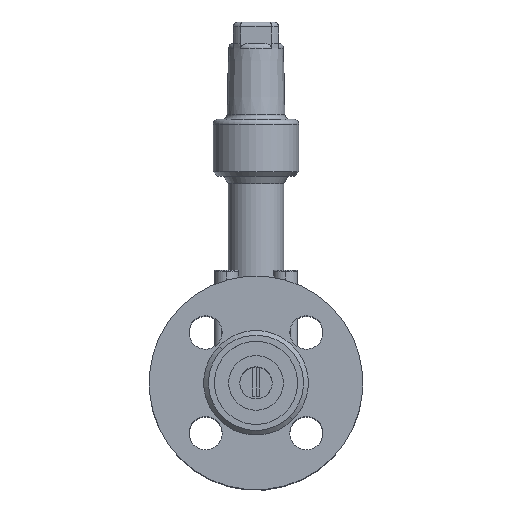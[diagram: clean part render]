
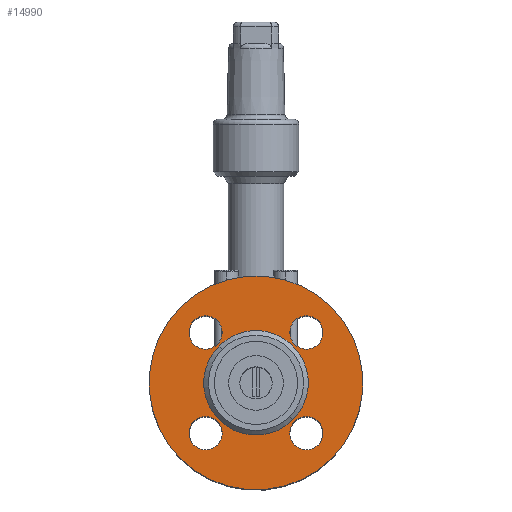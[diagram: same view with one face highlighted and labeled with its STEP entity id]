
A CAD part, top view. The second image highlights one B-rep face of the part: STEP entity #14990.
In plain terms, the highlighted planar face has unit normal (0, 0, 1) as drawn and (0, -1, 0) by its records, which use the part's own axes.
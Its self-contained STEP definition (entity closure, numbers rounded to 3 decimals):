
#3 = EDGE_LOOP ( 'NONE', ( #6827, #7940 ) ) ;
#16414 = EDGE_CURVE ( 'NONE', #14569, #17078, #11067, .T. ) ;
#74 = ORIENTED_EDGE ( 'NONE', *, *, #9362, .T. ) ;
#16471 = EDGE_CURVE ( 'NONE', #16252, #16024, #11132, .T. ) ;
#17078 = VERTEX_POINT ( 'NONE', #12203 ) ;
#1038 = EDGE_CURVE ( 'NONE', #8909, #9132, #17927, .T. ) ;
#1449 = ORIENTED_EDGE ( 'NONE', *, *, #1038, .T. ) ;
#17927 = CIRCLE ( 'NONE', #17928, 7. ) ;
#17928 = AXIS2_PLACEMENT_3D ( 'NONE', #17929, #17930, #17931 ) ;
#17929 = CARTESIAN_POINT ( 'NONE',  ( -30., 2., 0. ) ) ;
#17930 = DIRECTION ( 'NONE',  ( 0., 1., 0. ) ) ;
#17931 = DIRECTION ( 'NONE',  ( -1., 0., 0. ) ) ;
#1553 = CARTESIAN_POINT ( 'NONE',  ( -7., 2., -30. ) ) ;
#1581 = CIRCLE ( 'NONE', #1582, 7. ) ;
#1582 = AXIS2_PLACEMENT_3D ( 'NONE', #1583, #1584, #1585 ) ;
#1583 = CARTESIAN_POINT ( 'NONE',  ( 30., 2., 0. ) ) ;
#1584 = DIRECTION ( 'NONE',  ( 0., 1., 0. ) ) ;
#1585 = DIRECTION ( 'NONE',  ( -1., 0., 0. ) ) ;
#1839 = EDGE_CURVE ( 'NONE', #17078, #14569, #21154, .T. ) ;
#1897 = EDGE_CURVE ( 'NONE', #16269, #3520, #21164, .T. ) ;
#2477 = CARTESIAN_POINT ( 'NONE',  ( 7., 2., -30. ) ) ;
#2596 = CIRCLE ( 'NONE', #2597, 7. ) ;
#2597 = AXIS2_PLACEMENT_3D ( 'NONE', #2598, #2599, #2600 ) ;
#2598 = CARTESIAN_POINT ( 'NONE',  ( 0., 2., -30. ) ) ;
#2599 = DIRECTION ( 'NONE',  ( 0., 1., 0. ) ) ;
#2600 = DIRECTION ( 'NONE',  ( -1., 0., 0. ) ) ;
#2829 = EDGE_LOOP ( 'NONE', ( #12565, #11701 ) ) ;
#3520 = VERTEX_POINT ( 'NONE', #4576 ) ;
#3700 = EDGE_CURVE ( 'NONE', #3520, #16269, #4700, .T. ) ;
#4576 = CARTESIAN_POINT ( 'NONE',  ( -22., 2., 0. ) ) ;
#4587 = CARTESIAN_POINT ( 'NONE',  ( 37., 2., 0. ) ) ;
#4700 = CIRCLE ( 'NONE', #4701, 22. ) ;
#4701 = AXIS2_PLACEMENT_3D ( 'NONE', #4702, #4703, #4704 ) ;
#4702 = CARTESIAN_POINT ( 'NONE',  ( 0., 2., 0. ) ) ;
#4703 = DIRECTION ( 'NONE',  ( 0., 1., 0. ) ) ;
#4704 = DIRECTION ( 'NONE',  ( -1., 0., 0. ) ) ;
#21154 = CIRCLE ( 'NONE', #21155, 45. ) ;
#21155 = AXIS2_PLACEMENT_3D ( 'NONE', #21156, #21157, #21158 ) ;
#21156 = CARTESIAN_POINT ( 'NONE',  ( 0., 2., 0. ) ) ;
#21157 = DIRECTION ( 'NONE',  ( 0., 1., 0. ) ) ;
#21158 = DIRECTION ( 'NONE',  ( -1., 0., 0. ) ) ;
#21164 = CIRCLE ( 'NONE', #21165, 22. ) ;
#21165 = AXIS2_PLACEMENT_3D ( 'NONE', #21166, #21167, #21168 ) ;
#21166 = CARTESIAN_POINT ( 'NONE',  ( 0., 2., 0. ) ) ;
#21167 = DIRECTION ( 'NONE',  ( 0., 1., 0. ) ) ;
#21168 = DIRECTION ( 'NONE',  ( -1., 0., 0. ) ) ;
#4977 = CIRCLE ( 'NONE', #4978, 7. ) ;
#4978 = AXIS2_PLACEMENT_3D ( 'NONE', #4979, #4980, #4981 ) ;
#4979 = CARTESIAN_POINT ( 'NONE',  ( 30., 2., 0. ) ) ;
#4980 = DIRECTION ( 'NONE',  ( 0., 1., 0. ) ) ;
#4981 = DIRECTION ( 'NONE',  ( -1., 0., 0. ) ) ;
#6122 = CIRCLE ( 'NONE', #6123, 7. ) ;
#6123 = AXIS2_PLACEMENT_3D ( 'NONE', #6124, #6125, #6126 ) ;
#6124 = CARTESIAN_POINT ( 'NONE',  ( 0., 2., -30. ) ) ;
#6125 = DIRECTION ( 'NONE',  ( 0., 1., 0. ) ) ;
#6126 = DIRECTION ( 'NONE',  ( -1., 0., 0. ) ) ;
#6497 = EDGE_CURVE ( 'NONE', #16024, #16252, #9377, .T. ) ;
#6741 = CARTESIAN_POINT ( 'NONE',  ( 23., 2., 0. ) ) ;
#6827 = ORIENTED_EDGE ( 'NONE', *, *, #6497, .T. ) ;
#7218 = CARTESIAN_POINT ( 'NONE',  ( 45., 2., 0. ) ) ;
#7940 = ORIENTED_EDGE ( 'NONE', *, *, #16471, .T. ) ;
#8092 = FACE_BOUND ( 'NONE', #14737, .T. ) ;
#8093 = FACE_BOUND ( 'NONE', #13070, .T. ) ;
#8094 = FACE_BOUND ( 'NONE', #3, .T. ) ;
#8095 = FACE_BOUND ( 'NONE', #2829, .T. ) ;
#8096 = FACE_OUTER_BOUND ( 'NONE', #11455, .T. ) ;
#8097 = FACE_BOUND ( 'NONE', #10147, .T. ) ;
#8098 = PLANE ( 'NONE',  #8099 ) ;
#8099 = AXIS2_PLACEMENT_3D ( 'NONE', #8100, #8101, #8102 ) ;
#8100 = CARTESIAN_POINT ( 'NONE',  ( 22., 2., 0. ) ) ;
#8101 = DIRECTION ( 'NONE',  ( 0., 1., 0. ) ) ;
#8102 = DIRECTION ( 'NONE',  ( -1., 0., 0. ) ) ;
#8909 = VERTEX_POINT ( 'NONE', #14653 ) ;
#9094 = ORIENTED_EDGE ( 'NONE', *, *, #1897, .T. ) ;
#9132 = VERTEX_POINT ( 'NONE', #15046 ) ;
#9324 = CARTESIAN_POINT ( 'NONE',  ( -7., 2., 30. ) ) ;
#9362 = EDGE_CURVE ( 'NONE', #9132, #8909, #15693, .T. ) ;
#9377 = CIRCLE ( 'NONE', #9378, 7. ) ;
#9378 = AXIS2_PLACEMENT_3D ( 'NONE', #9379, #9380, #9381 ) ;
#9379 = CARTESIAN_POINT ( 'NONE',  ( 0., 2., 30. ) ) ;
#9380 = DIRECTION ( 'NONE',  ( 0., 1., 0. ) ) ;
#9381 = DIRECTION ( 'NONE',  ( -1., 0., 0. ) ) ;
#9621 = ORIENTED_EDGE ( 'NONE', *, *, #3700, .T. ) ;
#10147 = EDGE_LOOP ( 'NONE', ( #9621, #9094 ) ) ;
#10398 = ORIENTED_EDGE ( 'NONE', *, *, #16414, .F. ) ;
#10731 = CARTESIAN_POINT ( 'NONE',  ( 7., 2., 30. ) ) ;
#10732 = CARTESIAN_POINT ( 'NONE',  ( 22., 2., 0. ) ) ;
#10931 = ORIENTED_EDGE ( 'NONE', *, *, #1839, .F. ) ;
#11067 = CIRCLE ( 'NONE', #11068, 45. ) ;
#11068 = AXIS2_PLACEMENT_3D ( 'NONE', #11069, #11070, #11071 ) ;
#11069 = CARTESIAN_POINT ( 'NONE',  ( 0., 2., 0. ) ) ;
#11070 = DIRECTION ( 'NONE',  ( 0., 1., 0. ) ) ;
#11071 = DIRECTION ( 'NONE',  ( -1., 0., 0. ) ) ;
#11132 = CIRCLE ( 'NONE', #11133, 7. ) ;
#11133 = AXIS2_PLACEMENT_3D ( 'NONE', #11134, #11135, #11142 ) ;
#11134 = CARTESIAN_POINT ( 'NONE',  ( 0., 2., 30. ) ) ;
#11135 = DIRECTION ( 'NONE',  ( 0., 1., 0. ) ) ;
#11142 = DIRECTION ( 'NONE',  ( -1., 0., 0. ) ) ;
#11455 = EDGE_LOOP ( 'NONE', ( #10931, #10398 ) ) ;
#11701 = ORIENTED_EDGE ( 'NONE', *, *, #13368, .T. ) ;
#12161 = VERTEX_POINT ( 'NONE', #1553 ) ;
#12203 = CARTESIAN_POINT ( 'NONE',  ( -45., 2., 0. ) ) ;
#12228 = EDGE_CURVE ( 'NONE', #14461, #13147, #1581, .T. ) ;
#12379 = VERTEX_POINT ( 'NONE', #2477 ) ;
#12564 = EDGE_CURVE ( 'NONE', #12379, #12161, #2596, .T. ) ;
#12565 = ORIENTED_EDGE ( 'NONE', *, *, #12228, .T. ) ;
#13070 = EDGE_LOOP ( 'NONE', ( #1449, #74 ) ) ;
#13147 = VERTEX_POINT ( 'NONE', #4587 ) ;
#13311 = ORIENTED_EDGE ( 'NONE', *, *, #12564, .T. ) ;
#13368 = EDGE_CURVE ( 'NONE', #13147, #14461, #4977, .T. ) ;
#13836 = EDGE_CURVE ( 'NONE', #12161, #12379, #6122, .T. ) ;
#14212 = ORIENTED_EDGE ( 'NONE', *, *, #13836, .T. ) ;
#14461 = VERTEX_POINT ( 'NONE', #6741 ) ;
#14569 = VERTEX_POINT ( 'NONE', #7218 ) ;
#14653 = CARTESIAN_POINT ( 'NONE',  ( -37., 2., 0. ) ) ;
#14737 = EDGE_LOOP ( 'NONE', ( #14212, #13311 ) ) ;
#14990 = ADVANCED_FACE ( 'NONE', ( #8092, #8093, #8094, #8095, #8096, #8097 ), #8098, .F. ) ;
#15046 = CARTESIAN_POINT ( 'NONE',  ( -23., 2., 0. ) ) ;
#15693 = CIRCLE ( 'NONE', #15694, 7. ) ;
#15694 = AXIS2_PLACEMENT_3D ( 'NONE', #15695, #15696, #15697 ) ;
#15695 = CARTESIAN_POINT ( 'NONE',  ( -30., 2., 0. ) ) ;
#15696 = DIRECTION ( 'NONE',  ( 0., 1., 0. ) ) ;
#15697 = DIRECTION ( 'NONE',  ( -1., 0., 0. ) ) ;
#16024 = VERTEX_POINT ( 'NONE', #9324 ) ;
#16252 = VERTEX_POINT ( 'NONE', #10731 ) ;
#16269 = VERTEX_POINT ( 'NONE', #10732 ) ;
